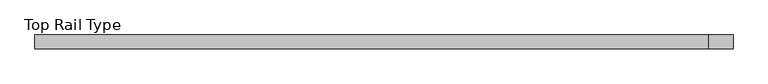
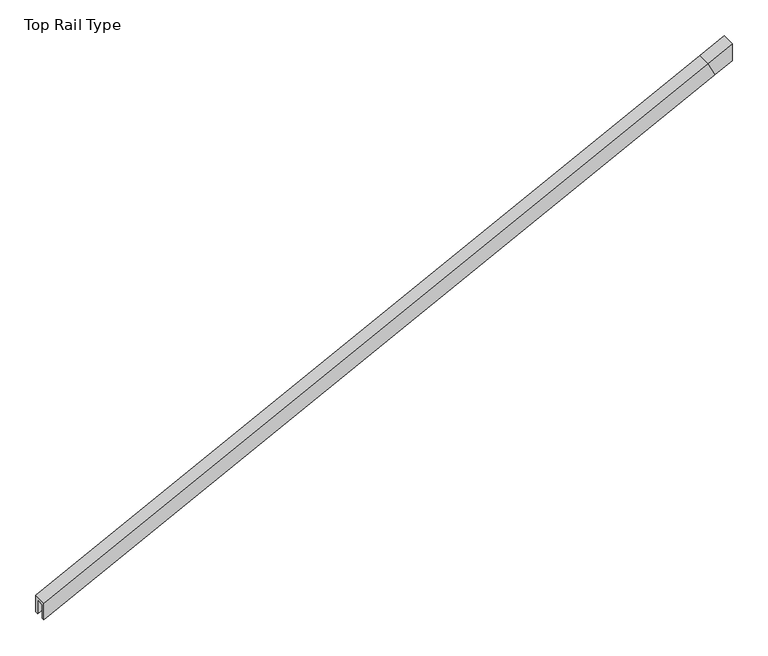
"""IFC4 building model written with IfcOpenShell, lengths in millimetres: proxy geometry, Top Rail Type."""

from ifc_helpers import new_model, si_unit, origin, place, context, project, spatial, faceted_brep, source, transform, mapped, element, save


def top_rail_type_04732f16(model_context):
    return source(origin(), model_context, "Body", "Brep", [
        faceted_brep([(6699.3721922, 23828.8281645, 3564.4038176), (6699.3721922, 23851.0531645, 3564.4038176), (6699.3721922, 23851.0531645, 3535.902629), (6699.3721922, 23846.2906645, 3535.902629), (6699.3721922, 23846.2906645, 3559.0598447), (6699.3721922, 23833.5906645, 3559.0598447), (6699.3721922, 23833.5906645, 3535.902629), (6699.3721922, 23828.8281645, 3535.902629), (7766.1721922, 23828.8281645, 4107.4197243), (7766.1721922, 23851.0531645, 4107.4197243), (7777.694355, 23851.0531645, 4084.7834754), (7777.694355, 23846.2906645, 4084.7834754), (7768.3325977, 23846.2906645, 4103.1754276), (7768.3325977, 23833.5906645, 4103.1754276), (7777.694355, 23833.5906645, 4084.7834754), (7777.694355, 23828.8281645, 4084.7834754), (7805.6215672, 23828.8281645, 4127.5), (7805.6215672, 23828.8281645, 4098.9988114), (7805.6215672, 23833.5906645, 4098.9988114), (7805.6215672, 23833.5906645, 4122.1560271), (7805.6215672, 23846.2906645, 4122.1560271), (7805.6215672, 23846.2906645, 4098.9988114), (7805.6215672, 23851.0531645, 4098.9988114), (7805.6215672, 23851.0531645, 4127.5)], [[[0, 1, 2, 3, 4, 5, 6, 7]], [[1, 0, 8, 9]], [[2, 1, 9, 10]], [[3, 2, 10, 11]], [[4, 3, 11, 12]], [[5, 4, 12, 13]], [[6, 5, 13, 14]], [[7, 6, 14, 15]], [[0, 7, 15, 8]], [[16, 17, 18, 19, 20, 21, 22, 23]], [[9, 8, 16, 23]], [[10, 9, 23, 22]], [[11, 10, 22, 21]], [[12, 11, 21, 20]], [[13, 12, 20, 19]], [[14, 13, 19, 18]], [[15, 14, 18, 17]], [[8, 15, 17, 16]]]),
    ])


if __name__ == "__main__":
    model = new_model("IFC4")
    model_context = context("Model", 3, world=origin())
    ifc_project = project(units=[si_unit("LENGTHUNIT", "METRE", prefix="MILLI")], contexts=[model_context])
    site = spatial("IfcSite", under=ifc_project)
    building = spatial("IfcBuilding", under=site)
    placement = place(None, origin())
    top_rail_type_shape = top_rail_type_04732f16(model_context)
    element("IfcBuildingElementProxy", 1, Name="Top Rail Type", ObjectType="Top Rail Type", at=placement, inside=building, context=model_context, shape_type="MappedRepresentation", body=[
        mapped(top_rail_type_shape, transform((0.0, 0.0, 0.0), x_axis=(1.0, 0.0, 0.0), y_axis=(0.0, 1.0, 0.0), z_axis=(0.0, 0.0, 1.0))),
    ])
    save(model, "model.ifc")
